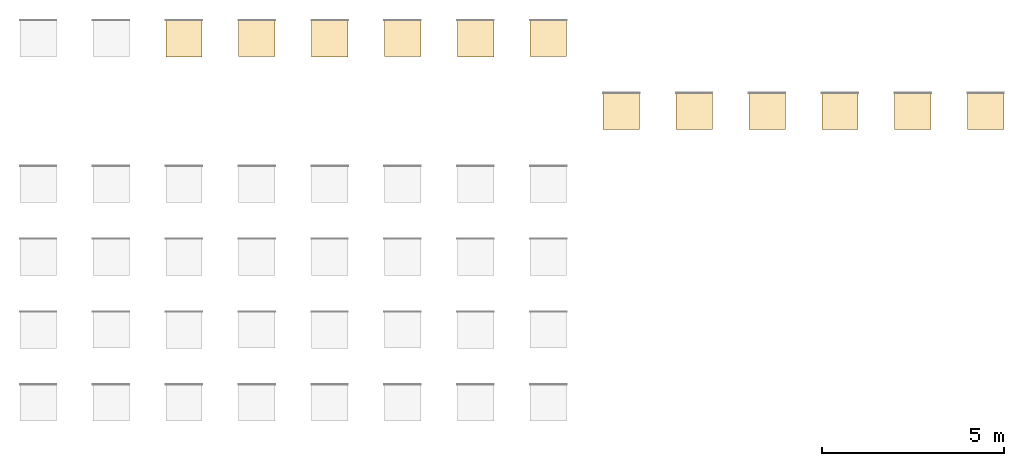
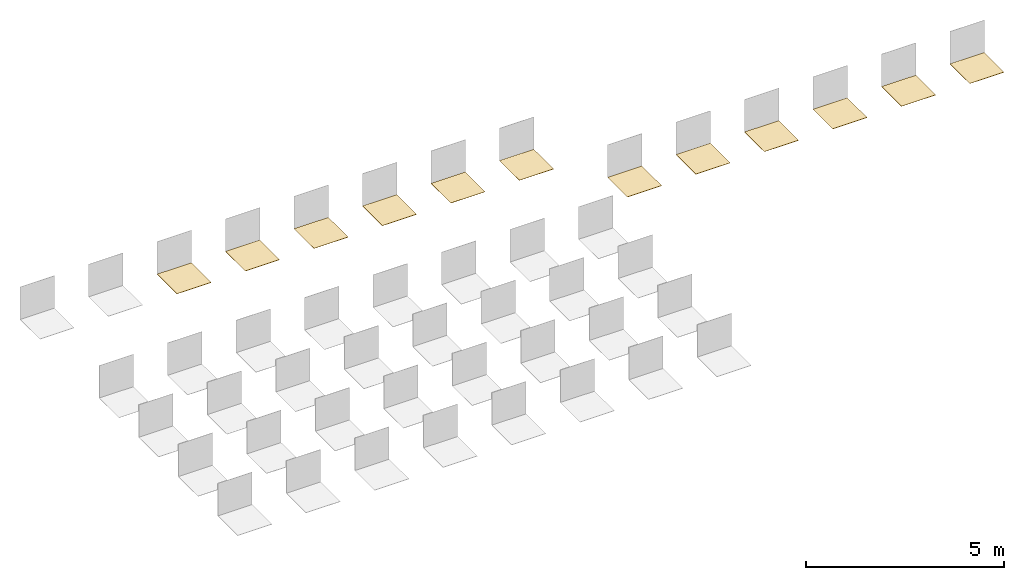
# One storey, part 4 of 4: 12 coverings.
"""IFC2X3 building model written with IfcOpenShell, lengths in millimetres."""

import ifcopenshell
import ifcopenshell.guid

model = None  # the IFC model being written
_history = None  # IfcOwnerHistory: only IFC2X3 demands one
_inside = {}  # id of a spatial element -> (the spatial element, [elements in it])
_under = {}  # id of a project, library or spatial element -> (it, [spatial elements below it])
_declared = {}  # id of a project -> (the project, [libraries it declares])
_typed = {}  # id of a type object -> (the type object, [elements of that type])
_made_of = {}  # id of a material, layer set ... -> (it, [elements and type objects made of it])


def new_model(schema):
    """Start an empty IFC model of exactly this schema.

    Asked for "IFC4X3", IfcOpenShell would pick the latest addendum, in which some entities
    have other attributes; the version numbers below select the first issue.
    IFC2X3 requires an IfcOwnerHistory on every rooted entity: one is made here for all.
    """
    global model, _history
    if schema == "IFC4X3":
        model = ifcopenshell.file(schema_version=(4, 3, 0, 0))
    else:
        model = ifcopenshell.file(schema=schema)
    _inside.clear()
    _under.clear()
    _declared.clear()
    _typed.clear()
    _made_of.clear()
    _history = None
    if model.schema == "IFC2X3":
        org = make("IfcOrganization", Name="unknown")
        user = make(
            "IfcPersonAndOrganization",
            ThePerson=make("IfcPerson", FamilyName="unknown"),
            TheOrganization=org,
        )
        app = make(
            "IfcApplication",
            ApplicationDeveloper=org,
            Version="unknown",
            ApplicationFullName="unknown",
            ApplicationIdentifier="unknown",
        )
        _history = make(
            "IfcOwnerHistory",
            OwningUser=user,
            OwningApplication=app,
            ChangeAction="ADDED",
            CreationDate=0,
        )
    return model


def make(cls, **values):
    """One entity of the class cls with the attributes given. An attribute that is None is left unset."""
    return model.create_entity(
        cls, **{name: value for name, value in values.items() if value is not None}
    )


def entity(cls, *values):
    """Any entity or typed value of the class cls, its attributes in the order of the schema. None: left unset."""
    e = model.create_entity(cls)
    for i, value in enumerate(values):
        if value is not None:
            e[i] = value
    return e


def rooted(cls, **values):
    """An entity with a GlobalId (a new one), such as an element, a storey or a relation."""
    return make(cls, GlobalId=ifcopenshell.guid.new(), OwnerHistory=_history, **values)


def si_unit(unit_type, name, prefix=None):
    """IfcSIUnit, for example si_unit("LENGTHUNIT", "METRE", prefix="MILLI")."""
    return make("IfcSIUnit", UnitType=unit_type, Prefix=prefix, Name=name)


def converted_unit(unit_type, name, factor, base, dimensions=None, offset=None):
    """IfcConversionBasedUnit, such as the inch: factor (a typed value) times the base unit."""
    return make(
        "IfcConversionBasedUnit"
        if offset is None
        else "IfcConversionBasedUnitWithOffset",
        ConversionOffset=offset,
        Dimensions=None
        if dimensions is None
        else entity("IfcDimensionalExponents", *dimensions),
        UnitType=unit_type,
        Name=name,
        ConversionFactor=make(
            "IfcMeasureWithUnit", ValueComponent=factor, UnitComponent=base
        ),
    )


def derived_unit(unit_type, elements):
    """IfcDerivedUnit: a product of units, each with its exponent."""
    return make(
        "IfcDerivedUnit",
        Elements=[
            make("IfcDerivedUnitElement", Unit=unit, Exponent=power)
            for unit, power in elements
        ],
        UnitType=unit_type,
    )


def assignment(units):
    """IfcUnitAssignment: the units of a project."""
    return None if units is None else make("IfcUnitAssignment", Units=units)


def point(xyz):
    """IfcCartesianPoint."""
    return None if xyz is None else make("IfcCartesianPoint", Coordinates=xyz)


def direction(xyz):
    """IfcDirection."""
    return None if xyz is None else make("IfcDirection", DirectionRatios=xyz)


def frame(location, z_axis=None, x_axis=None):
    """IfcAxis2Placement3D, a coordinate frame: its origin and axes. An axis left out is left unset."""
    return make(
        "IfcAxis2Placement3D",
        Location=point(location),
        Axis=direction(z_axis),
        RefDirection=direction(x_axis),
    )


def frame_2d(location, x_axis=None):
    """IfcAxis2Placement2D, a coordinate frame in the plane: its origin and x axis."""
    return make(
        "IfcAxis2Placement2D", Location=point(location), RefDirection=direction(x_axis)
    )


def origin():
    """The frame at (0, 0, 0) with its axes left unset."""
    return frame((0.0, 0.0, 0.0))


def origin_2d_with_axis():
    """The frame at (0, 0) in the plane with the x axis (1, 0) written out."""
    return frame_2d((0.0, 0.0), x_axis=(1.0, 0.0))


def place(relative_to, where):
    """IfcLocalPlacement: puts the frame where relative to a parent placement (None: the world)."""
    return make(
        "IfcLocalPlacement", PlacementRelTo=relative_to, RelativePlacement=where
    )


def context(
    kind, dimensions, precision=None, world=None, true_north=None, identifier=None
):
    """IfcGeometricRepresentationContext, for example the 3D "Model" context."""
    return make(
        "IfcGeometricRepresentationContext",
        ContextIdentifier=identifier,
        ContextType=kind,
        CoordinateSpaceDimension=dimensions,
        Precision=precision,
        WorldCoordinateSystem=world,
        TrueNorth=true_north,
    )


def subcontext(parent, identifier, kind, view, scale=None):
    """IfcGeometricRepresentationSubContext, for example "Body" below "Model"."""
    return make(
        "IfcGeometricRepresentationSubContext",
        ContextIdentifier=identifier,
        ContextType=kind,
        ParentContext=parent,
        TargetScale=scale,
        TargetView=view,
    )


def project(units=None, contexts=None):
    """IfcProject with its units and contexts."""
    return rooted(
        "IfcProject",
        Name="project",
        RepresentationContexts=contexts,
        UnitsInContext=assignment(units),
    )


def spatial(cls, under=None, at=None, **own):
    """A site, building, storey or space (cls), placed at a placement, below another one or the project."""
    s = rooted(cls, ObjectPlacement=at, **own)
    if under is not None:
        _under.setdefault(under.id(), (under, []))[1].append(s)
    return s


def profile(cls, at=None, kind="AREA", **sizes):
    """A parametric profile (cls). Its sizes go by their IFC names, for example OverallWidth=200.0."""
    return make(cls, ProfileType=kind, Position=at, **sizes)


def rectangle(**sizes):
    """IfcRectangleProfileDef."""
    return profile("IfcRectangleProfileDef", **sizes)


def extrude(swept, where, along, depth):
    """IfcExtrudedAreaSolid: the profile swept, set in the frame where, extruded along a direction by depth."""
    return make(
        "IfcExtrudedAreaSolid",
        SweptArea=swept,
        Position=where,
        ExtrudedDirection=direction(along),
        Depth=depth,
    )


def shape(context_of_items, identifier, shape_type, items):
    """IfcShapeRepresentation: the items that make up one representation, for example the "Body"."""
    return make(
        "IfcShapeRepresentation",
        ContextOfItems=context_of_items,
        RepresentationIdentifier=identifier,
        RepresentationType=shape_type,
        Items=items,
    )


def material(Name=None, Category=None):
    """IfcMaterial."""
    return make("IfcMaterial", Name=Name, Category=Category)


def layer(
    of_material, thickness, ventilated=None, Name=None, Category=None, Priority=None
):
    """IfcMaterialLayer: one layer of a wall or slab, of a material (None: an air gap)."""
    return make(
        "IfcMaterialLayer",
        Material=of_material,
        LayerThickness=thickness,
        IsVentilated=ventilated,
        Name=Name,
        Category=Category,
        Priority=Priority,
    )


def layer_set(layers, Name=None):
    """IfcMaterialLayerSet."""
    return make("IfcMaterialLayerSet", MaterialLayers=layers, LayerSetName=Name)


def layer_usage(for_layer_set, set_direction, sense, offset, extent=None):
    """IfcMaterialLayerSetUsage: how a layer set lies in its element."""
    return make(
        "IfcMaterialLayerSetUsage",
        ForLayerSet=for_layer_set,
        LayerSetDirection=set_direction,
        DirectionSense=sense,
        OffsetFromReferenceLine=offset,
        ReferenceExtent=extent,
    )


def made_of(thing, what):
    """Note that an element or type object is made of a material, layer set ...; save() writes the relation."""
    if what is not None:
        _made_of.setdefault(what.id(), (what, []))[1].append(thing)
    return thing


def type_object(cls, material=None, **own):
    """A type object (cls), such as IfcWallType, which elements share."""
    return made_of(rooted(cls, **own), material)


def element(
    cls,
    number,
    at=None,
    inside=None,
    cuts=None,
    type_object=None,
    material=None,
    context=None,
    identifier="Body",
    shape_type=None,
    held_by="IfcProductDefinitionShape",
    body=None,
    shapes=None,
    **own,
):
    """One element of the class cls, such as IfcWall. Its Tag is "e" and its number.

    at: its placement. inside: the storey or other place that contains it. cuts: it is an
    opening in that element (IfcRelVoidsElement). A single representation is given by context,
    identifier, shape_type and body (its items); several are given by shapes. held_by: the class
    of the entity that holds the representations. save() writes the other relations.
    """
    e = rooted(cls, Tag="e%d" % number, ObjectPlacement=at, **own)
    if body is not None:
        shapes = [shape(context, identifier, shape_type, body)]
    if shapes is not None:
        e.Representation = make(held_by, Representations=shapes)
    if inside is not None:
        _inside.setdefault(inside.id(), (inside, []))[1].append(e)
    if cuts is not None:
        rooted(
            "IfcRelVoidsElement", RelatingBuildingElement=cuts, RelatedOpeningElement=e
        )
    if type_object is not None:
        _typed.setdefault(type_object.id(), (type_object, []))[1].append(e)
    return made_of(e, material)


def aggregate(whole, parts):
    """IfcRelAggregates: a whole, such as a stair, and the parts it consists of."""
    return rooted("IfcRelAggregates", RelatingObject=whole, RelatedObjects=parts)


def save(model, path):
    """Write the relations noted so far, then the file.

    IfcRelAggregates (storeys below a building ...), IfcRelContainedInSpatialStructure (elements
    in a storey), IfcRelDefinesByType, IfcRelAssociatesMaterial and IfcRelDeclares: one each for
    every whole, place, type object, material and project.
    """
    for whole, parts in _under.values():
        aggregate(whole, parts)
    for where, things in _inside.values():
        rooted(
            "IfcRelContainedInSpatialStructure",
            RelatedElements=things,
            RelatingStructure=where,
        )
    for kind, things in _typed.values():
        rooted("IfcRelDefinesByType", RelatedObjects=things, RelatingType=kind)
    for what, things in _made_of.values():
        rooted("IfcRelAssociatesMaterial", RelatedObjects=things, RelatingMaterial=what)
    for by, libraries in _declared.values():
        rooted("IfcRelDeclares", RelatingContext=by, RelatedDefinitions=libraries)
    model.write(path)


model = new_model("IFC2X3")

# Units and contexts
model_context = context("Model", 3, precision=0.01, world=origin(), true_north=direction((6.12303176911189e-17, 1.0)))
body_context = subcontext(model_context, "Body", "Model", "MODEL_VIEW")
ifc_project = project(units=[si_unit("LENGTHUNIT", "METRE", prefix="MILLI"), si_unit("AREAUNIT", "SQUARE_METRE"), si_unit("VOLUMEUNIT", "CUBIC_METRE"), converted_unit("PLANEANGLEUNIT", "DEGREE", entity("IfcRatioMeasure", 0.0174532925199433), si_unit("PLANEANGLEUNIT", "RADIAN"), dimensions=[0, 0, 0, 0, 0, 0, 0]), si_unit("MASSUNIT", "GRAM", prefix="KILO"), derived_unit("MASSDENSITYUNIT", [(si_unit("MASSUNIT", "GRAM", prefix="KILO"), 1), (si_unit("LENGTHUNIT", "METRE"), -3)]), derived_unit("MOMENTOFINERTIAUNIT", [(si_unit("LENGTHUNIT", "METRE"), 4)]), si_unit("TIMEUNIT", "SECOND"), si_unit("FREQUENCYUNIT", "HERTZ"), si_unit("THERMODYNAMICTEMPERATUREUNIT", "DEGREE_CELSIUS"), derived_unit("THERMALTRANSMITTANCEUNIT", [(si_unit("MASSUNIT", "GRAM", prefix="KILO"), 1), (si_unit("THERMODYNAMICTEMPERATUREUNIT", "KELVIN"), -1), (si_unit("TIMEUNIT", "SECOND"), -3)]), derived_unit("VOLUMETRICFLOWRATEUNIT", [(si_unit("LENGTHUNIT", "METRE"), 3), (si_unit("TIMEUNIT", "SECOND"), -1)]), si_unit("ELECTRICCURRENTUNIT", "AMPERE"), si_unit("ELECTRICVOLTAGEUNIT", "VOLT"), si_unit("POWERUNIT", "WATT"), si_unit("FORCEUNIT", "NEWTON", prefix="KILO"), si_unit("ILLUMINANCEUNIT", "LUX"), si_unit("LUMINOUSFLUXUNIT", "LUMEN"), si_unit("LUMINOUSINTENSITYUNIT", "CANDELA"), derived_unit("USERDEFINED", [(si_unit("MASSUNIT", "GRAM", prefix="KILO"), -1), (si_unit("LENGTHUNIT", "METRE"), -2), (si_unit("TIMEUNIT", "SECOND"), 3), (si_unit("LUMINOUSFLUXUNIT", "LUMEN"), 1)]), derived_unit("LINEARVELOCITYUNIT", [(si_unit("LENGTHUNIT", "METRE"), 1), (si_unit("TIMEUNIT", "SECOND"), -1)]), si_unit("PRESSUREUNIT", "PASCAL"), derived_unit("USERDEFINED", [(si_unit("LENGTHUNIT", "METRE"), -2), (si_unit("MASSUNIT", "GRAM", prefix="KILO"), 1), (si_unit("TIMEUNIT", "SECOND"), -2)]), derived_unit("LINEARFORCEUNIT", [(si_unit("MASSUNIT", "GRAM", prefix="KILO"), 1), (si_unit("LENGTHUNIT", "METRE"), 1), (si_unit("TIMEUNIT", "SECOND"), -2), (si_unit("LENGTHUNIT", "METRE"), -1)]), derived_unit("PLANARFORCEUNIT", [(si_unit("MASSUNIT", "GRAM", prefix="KILO"), 1), (si_unit("LENGTHUNIT", "METRE"), 1), (si_unit("TIMEUNIT", "SECOND"), -2), (si_unit("LENGTHUNIT", "METRE"), -2)])], contexts=[model_context])

# Site, building, storey
site_placement = place(None, origin())
site = spatial("IfcSite", under=ifc_project, at=site_placement, Name="Default", CompositionType="ELEMENT")
building_placement = place(site_placement, origin())
building = spatial("IfcBuilding", under=site, at=building_placement, CompositionType="ELEMENT")
storey_placement = place(building_placement, origin())
storey = spatial("IfcBuildingStorey", under=building, at=storey_placement, Name="Level 1", CompositionType="ELEMENT", Elevation=0.0)

# Coverings
ifc_material_1 = material(Name="REVIGRÉS-LOCUS-BASE-10X10-SOFT GRIP-BONE")
ifc_layer_1 = layer(ifc_material_1, 8.5)
ifc_layer_set_1 = layer_set([ifc_layer_1], Name="Floor:REVIGRÉS-LOCUS-BASE-9.7x9.7-SOFT GRIP-BONE")
ifc_layer_usage_1 = layer_usage(ifc_layer_set_1, "AXIS3", "POSITIVE", 0.0)
covering_type_1 = type_object("IfcCoveringType", Name="Floor:REVIGRÉS-LOCUS-BASE-9.7x9.7-SOFT GRIP-BONE", PredefinedType="CLADDING", material=ifc_layer_set_1)
covering_1_placement = place(storey_placement, origin())
element("IfcCovering", 1, at=covering_1_placement, inside=storey, type_object=covering_type_1, material=ifc_layer_usage_1, Name="Floor:REVIGRÉS-LOCUS-BASE-9.7x9.7-SOFT GRIP-BONE", ObjectType="Floor:REVIGRÉS-LOCUS-BASE-9.7x9.7-SOFT GRIP-BONE", PredefinedType="CLADDING", context=body_context, shape_type="SweptSolid", body=[
    extrude(rectangle(XDim=1000.0, YDim=999.999999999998, at=origin_2d_with_axis()), frame((8448.64271399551, 2608.07579736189, 0.0), z_axis=(0.0, 0.0, -1.0), x_axis=(0.0, 1.0, 0.0)), (0.0, 0.0, 1.0), 8.5),
])
ifc_material_2 = material(Name="REVIGRÉS-LOCUS-BASE-10X10-SOFT GRIP-GRIS")
ifc_layer_2 = layer(ifc_material_2, 8.5)
ifc_layer_set_2 = layer_set([ifc_layer_2], Name="Floor:REVIGRÉS-LOCUS-BASE-9.7x9.7-SOFT GRIP-GRIS")
ifc_layer_usage_2 = layer_usage(ifc_layer_set_2, "AXIS3", "POSITIVE", 0.0)
covering_type_2 = type_object("IfcCoveringType", Name="Floor:REVIGRÉS-LOCUS-BASE-9.7x9.7-SOFT GRIP-GRIS", PredefinedType="CLADDING", material=ifc_layer_set_2)
covering_2_placement = place(storey_placement, origin())
element("IfcCovering", 2, at=covering_2_placement, inside=storey, type_object=covering_type_2, material=ifc_layer_usage_2, Name="Floor:REVIGRÉS-LOCUS-BASE-9.7x9.7-SOFT GRIP-GRIS", ObjectType="Floor:REVIGRÉS-LOCUS-BASE-9.7x9.7-SOFT GRIP-GRIS", PredefinedType="CLADDING", context=body_context, shape_type="SweptSolid", body=[
    extrude(rectangle(XDim=1000.0, YDim=1000.0, at=frame_2d((0.0, 1.08002495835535e-12), x_axis=(1.0, 0.0))), frame((12448.6427139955, 2608.07579736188, 0.0), z_axis=(0.0, 0.0, -1.0), x_axis=(0.0, 1.0, 0.0)), (0.0, 0.0, 1.0), 8.5),
])
ifc_material_3 = material(Name="REVIGRÉS-LOCUS-BASE-10X10-SOFT GRIP-SMOG")
ifc_layer_3 = layer(ifc_material_3, 8.5)
ifc_layer_set_3 = layer_set([ifc_layer_3], Name="Floor:REVIGRÉS-LOCUS-BASE-9.7x9.7-SOFT GRIP-SMOG")
ifc_layer_usage_3 = layer_usage(ifc_layer_set_3, "AXIS3", "POSITIVE", 0.0)
covering_type_3 = type_object("IfcCoveringType", Name="Floor:REVIGRÉS-LOCUS-BASE-9.7x9.7-SOFT GRIP-SMOG", PredefinedType="CLADDING", material=ifc_layer_set_3)
covering_3_placement = place(storey_placement, origin())
element("IfcCovering", 3, at=covering_3_placement, inside=storey, type_object=covering_type_3, material=ifc_layer_usage_3, Name="Floor:REVIGRÉS-LOCUS-BASE-9.7x9.7-SOFT GRIP-SMOG", ObjectType="Floor:REVIGRÉS-LOCUS-BASE-9.7x9.7-SOFT GRIP-SMOG", PredefinedType="CLADDING", context=body_context, shape_type="SweptSolid", body=[
    extrude(rectangle(XDim=1000.0, YDim=1000.0, at=frame_2d((0.0, -2.1600499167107e-12), x_axis=(1.0, 0.0))), frame((16448.6427139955, 2608.07579736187, 0.0), z_axis=(0.0, 0.0, -1.0), x_axis=(0.0, 1.0, 0.0)), (0.0, 0.0, 1.0), 8.5),
])
ifc_material_4 = material(Name="REVIGRÉS-LOCUS-BASE-10X10-SILK-BONE")
ifc_layer_4 = layer(ifc_material_4, 8.5)
ifc_layer_set_4 = layer_set([ifc_layer_4], Name="Floor:REVIGRÉS-LOCUS-BASE-9.7x9.7-SILK-BONE")
ifc_layer_usage_4 = layer_usage(ifc_layer_set_4, "AXIS3", "POSITIVE", 0.0)
covering_type_4 = type_object("IfcCoveringType", Name="Floor:REVIGRÉS-LOCUS-BASE-9.7x9.7-SILK-BONE", PredefinedType="CLADDING", material=ifc_layer_set_4)
covering_4_placement = place(storey_placement, origin())
element("IfcCovering", 4, at=covering_4_placement, inside=storey, type_object=covering_type_4, material=ifc_layer_usage_4, Name="Floor:REVIGRÉS-LOCUS-BASE-9.7x9.7-SILK-BONE", ObjectType="Floor:REVIGRÉS-LOCUS-BASE-9.7x9.7-SILK-BONE", PredefinedType="CLADDING", context=body_context, shape_type="SweptSolid", body=[
    extrude(rectangle(XDim=1000.0, YDim=1000.0, at=origin_2d_with_axis()), frame((6448.64271399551, 2603.8257973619, 0.0), z_axis=(0.0, 0.0, -1.0), x_axis=(0.0, 1.0, 0.0)), (0.0, 0.0, 1.0), 8.5),
])
ifc_material_5 = material(Name="REVIGRÉS-LOCUS-BASE-10X10-SILK-GRIS")
ifc_layer_5 = layer(ifc_material_5, 8.5)
ifc_layer_set_5 = layer_set([ifc_layer_5], Name="Floor:REVIGRÉS-LOCUS-BASE-9.7x9.7-SILK-GRIS")
ifc_layer_usage_5 = layer_usage(ifc_layer_set_5, "AXIS3", "POSITIVE", 0.0)
covering_type_5 = type_object("IfcCoveringType", Name="Floor:REVIGRÉS-LOCUS-BASE-9.7x9.7-SILK-GRIS", PredefinedType="CLADDING", material=ifc_layer_set_5)
covering_5_placement = place(storey_placement, origin())
element("IfcCovering", 5, at=covering_5_placement, inside=storey, type_object=covering_type_5, material=ifc_layer_usage_5, Name="Floor:REVIGRÉS-LOCUS-BASE-9.7x9.7-SILK-GRIS", ObjectType="Floor:REVIGRÉS-LOCUS-BASE-9.7x9.7-SILK-GRIS", PredefinedType="CLADDING", context=body_context, shape_type="SweptSolid", body=[
    extrude(rectangle(XDim=1000.0, YDim=999.999999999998, at=origin_2d_with_axis()), frame((10448.6427139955, 2603.82579736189, 0.0), z_axis=(0.0, 0.0, -1.0), x_axis=(0.0, 1.0, 0.0)), (0.0, 0.0, 1.0), 8.5),
])
ifc_material_6 = material(Name="REVIGRÉS-LOCUS-BASE-10X10-SILK-SMOG")
ifc_layer_6 = layer(ifc_material_6, 8.5)
ifc_layer_set_6 = layer_set([ifc_layer_6], Name="Floor:REVIGRÉS-LOCUS-BASE-9.7x9.7-SILK-SMOG")
ifc_layer_usage_6 = layer_usage(ifc_layer_set_6, "AXIS3", "POSITIVE", 0.0)
covering_type_6 = type_object("IfcCoveringType", Name="Floor:REVIGRÉS-LOCUS-BASE-9.7x9.7-SILK-SMOG", PredefinedType="CLADDING", material=ifc_layer_set_6)
covering_6_placement = place(storey_placement, origin())
element("IfcCovering", 6, at=covering_6_placement, inside=storey, type_object=covering_type_6, material=ifc_layer_usage_6, Name="Floor:REVIGRÉS-LOCUS-BASE-9.7x9.7-SILK-SMOG", ObjectType="Floor:REVIGRÉS-LOCUS-BASE-9.7x9.7-SILK-SMOG", PredefinedType="CLADDING", context=body_context, shape_type="SweptSolid", body=[
    extrude(rectangle(XDim=1000.0, YDim=1000.0, at=origin_2d_with_axis()), frame((14448.6427139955, 2603.82579736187, 0.0), z_axis=(0.0, 0.0, -1.0), x_axis=(0.0, 1.0, 0.0)), (0.0, 0.0, 1.0), 8.5),
])
ifc_material_7 = material(Name="REVIGRÉS-LOCUS-BASE-30X30-SOFT GRIP-QUILT BONE")
ifc_layer_7 = layer(ifc_material_7, 8.5)
ifc_layer_set_7 = layer_set([ifc_layer_7], Name="Floor:REVIGRÉS-LOCUS-BASE-29.5x29.5-SOFT GRIP-QUILT BONE")
ifc_layer_usage_7 = layer_usage(ifc_layer_set_7, "AXIS3", "POSITIVE", 0.0)
covering_type_7 = type_object("IfcCoveringType", Name="Floor:REVIGRÉS-LOCUS-BASE-29.5x29.5-SOFT GRIP-QUILT BONE", PredefinedType="CLADDING", material=ifc_layer_set_7)
covering_7_placement = place(storey_placement, origin())
element("IfcCovering", 7, at=covering_7_placement, inside=storey, type_object=covering_type_7, material=ifc_layer_usage_7, Name="Floor:REVIGRÉS-LOCUS-BASE-29.5x29.5-SOFT GRIP-QUILT BONE", ObjectType="Floor:REVIGRÉS-LOCUS-BASE-29.5x29.5-SOFT GRIP-QUILT BONE", PredefinedType="CLADDING", context=body_context, shape_type="SweptSolid", body=[
    extrude(rectangle(XDim=1000.0, YDim=999.999999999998, at=origin_2d_with_axis()), frame((20448.6427139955, 608.075797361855, 0.0), z_axis=(0.0, 0.0, -1.0), x_axis=(0.0, 1.0, 0.0)), (0.0, 0.0, 1.0), 8.5),
])
ifc_material_8 = material(Name="REVIGRÉS-LOCUS-BASE-30X30-SOFT GRIP-QUILT GREEN")
ifc_layer_8 = layer(ifc_material_8, 8.5)
ifc_layer_set_8 = layer_set([ifc_layer_8], Name="Floor:REVIGRÉS-LOCUS-BASE-29.5x29.5-SOFT GRIP-QUILT GREEN")
ifc_layer_usage_8 = layer_usage(ifc_layer_set_8, "AXIS3", "POSITIVE", 0.0)
covering_type_8 = type_object("IfcCoveringType", Name="Floor:REVIGRÉS-LOCUS-BASE-29.5x29.5-SOFT GRIP-QUILT GREEN", PredefinedType="CLADDING", material=ifc_layer_set_8)
covering_8_placement = place(storey_placement, origin())
element("IfcCovering", 8, at=covering_8_placement, inside=storey, type_object=covering_type_8, material=ifc_layer_usage_8, Name="Floor:REVIGRÉS-LOCUS-BASE-29.5x29.5-SOFT GRIP-QUILT GREEN", ObjectType="Floor:REVIGRÉS-LOCUS-BASE-29.5x29.5-SOFT GRIP-QUILT GREEN", PredefinedType="CLADDING", context=body_context, shape_type="SweptSolid", body=[
    extrude(rectangle(XDim=999.999999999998, YDim=1000.0, at=frame_2d((0.0, 2.1600499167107e-12), x_axis=(1.0, 0.0))), frame((24448.6427139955, 608.075797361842, 0.0), z_axis=(0.0, 0.0, -1.0), x_axis=(0.0, 1.0, 0.0)), (0.0, 0.0, 1.0), 8.5),
])
ifc_material_9 = material(Name="REVIGRÉS-LOCUS-BASE-30X30-SOFT GRIP-QUILT GRIS")
ifc_layer_9 = layer(ifc_material_9, 8.5)
ifc_layer_set_9 = layer_set([ifc_layer_9], Name="Floor:REVIGRÉS-LOCUS-BASE-29.5x29.5-SOFT GRIP-QUILT GRIS")
ifc_layer_usage_9 = layer_usage(ifc_layer_set_9, "AXIS3", "POSITIVE", 0.0)
covering_type_9 = type_object("IfcCoveringType", Name="Floor:REVIGRÉS-LOCUS-BASE-29.5x29.5-SOFT GRIP-QUILT GRIS", PredefinedType="CLADDING", material=ifc_layer_set_9)
covering_9_placement = place(storey_placement, origin())
element("IfcCovering", 9, at=covering_9_placement, inside=storey, type_object=covering_type_9, material=ifc_layer_usage_9, Name="Floor:REVIGRÉS-LOCUS-BASE-29.5x29.5-SOFT GRIP-QUILT GRIS", ObjectType="Floor:REVIGRÉS-LOCUS-BASE-29.5x29.5-SOFT GRIP-QUILT GRIS", PredefinedType="CLADDING", context=body_context, shape_type="SweptSolid", body=[
    extrude(rectangle(XDim=1000.0, YDim=999.999999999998, at=origin_2d_with_axis()), frame((28448.6427139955, 608.075797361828, 0.0), z_axis=(0.0, 0.0, -1.0), x_axis=(0.0, 1.0, 0.0)), (0.0, 0.0, 1.0), 8.5),
])
ifc_material_10 = material(Name="REVIGRÉS-LOCUS-BASE-30X30-SILK-QUILT GREEN")
ifc_layer_10 = layer(ifc_material_10, 8.5)
ifc_layer_set_10 = layer_set([ifc_layer_10], Name="Floor:REVIGRÉS-LOCUS-BASE-29.5x29.5-SILK-QUILT GREEN")
ifc_layer_usage_10 = layer_usage(ifc_layer_set_10, "AXIS3", "POSITIVE", 0.0)
covering_type_10 = type_object("IfcCoveringType", Name="Floor:REVIGRÉS-LOCUS-BASE-29.5x29.5-SILK-QUILT GREEN", PredefinedType="CLADDING", material=ifc_layer_set_10)
covering_10_placement = place(storey_placement, origin())
element("IfcCovering", 10, at=covering_10_placement, inside=storey, type_object=covering_type_10, material=ifc_layer_usage_10, Name="Floor:REVIGRÉS-LOCUS-BASE-29.5x29.5-SILK-QUILT GREEN", ObjectType="Floor:REVIGRÉS-LOCUS-BASE-29.5x29.5-SILK-QUILT GREEN", PredefinedType="CLADDING", context=body_context, shape_type="SweptSolid", body=[
    extrude(rectangle(XDim=999.999999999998, YDim=1000.0, at=frame_2d((0.0, -1.08002495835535e-12), x_axis=(1.0, 0.0))), frame((18448.6427139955, 603.825797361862, 0.0), z_axis=(0.0, 0.0, -1.0), x_axis=(0.0, 1.0, 0.0)), (0.0, 0.0, 1.0), 8.5),
])
ifc_layer_usage_11 = layer_usage(ifc_layer_set_10, "AXIS3", "POSITIVE", 0.0)
covering_type_11 = type_object("IfcCoveringType", Name="Floor:REVIGRÉS-LOCUS-BASE-29.5x29.5-SILK-QUILT GREEN", PredefinedType="CLADDING", material=ifc_layer_set_10)
covering_11_placement = place(storey_placement, origin())
element("IfcCovering", 11, at=covering_11_placement, inside=storey, type_object=covering_type_11, material=ifc_layer_usage_11, Name="Floor:REVIGRÉS-LOCUS-BASE-29.5x29.5-SILK-QUILT GREEN", ObjectType="Floor:REVIGRÉS-LOCUS-BASE-29.5x29.5-SILK-QUILT GREEN", PredefinedType="CLADDING", context=body_context, shape_type="SweptSolid", body=[
    extrude(rectangle(XDim=1000.0, YDim=1000.0, at=frame_2d((0.0, 2.1600499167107e-12), x_axis=(1.0, 0.0))), frame((22448.6427139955, 603.825797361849, 0.0), z_axis=(0.0, 0.0, -1.0), x_axis=(0.0, 1.0, 0.0)), (0.0, 0.0, 1.0), 8.5),
])
ifc_material_11 = material(Name="REVIGRÉS-LOCUS-BASE-30X30-SILK-QUILT GRIS")
ifc_layer_11 = layer(ifc_material_11, 8.5)
ifc_layer_set_11 = layer_set([ifc_layer_11], Name="Floor:REVIGRÉS-LOCUS-BASE-29.5x29.5-SILK-QUILT GRIS")
ifc_layer_usage_12 = layer_usage(ifc_layer_set_11, "AXIS3", "POSITIVE", 0.0)
covering_type_12 = type_object("IfcCoveringType", Name="Floor:REVIGRÉS-LOCUS-BASE-29.5x29.5-SILK-QUILT GRIS", PredefinedType="CLADDING", material=ifc_layer_set_11)
covering_12_placement = place(storey_placement, origin())
element("IfcCovering", 12, at=covering_12_placement, inside=storey, type_object=covering_type_12, material=ifc_layer_usage_12, Name="Floor:REVIGRÉS-LOCUS-BASE-29.5x29.5-SILK-QUILT GRIS", ObjectType="Floor:REVIGRÉS-LOCUS-BASE-29.5x29.5-SILK-QUILT GRIS", PredefinedType="CLADDING", context=body_context, shape_type="SweptSolid", body=[
    extrude(rectangle(XDim=1000.0, YDim=999.999999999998, at=origin_2d_with_axis()), frame((26448.6427139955, 603.825797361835, 0.0), z_axis=(0.0, 0.0, -1.0), x_axis=(0.0, 1.0, 0.0)), (0.0, 0.0, 1.0), 8.5),
])

save(model, "model.ifc")
